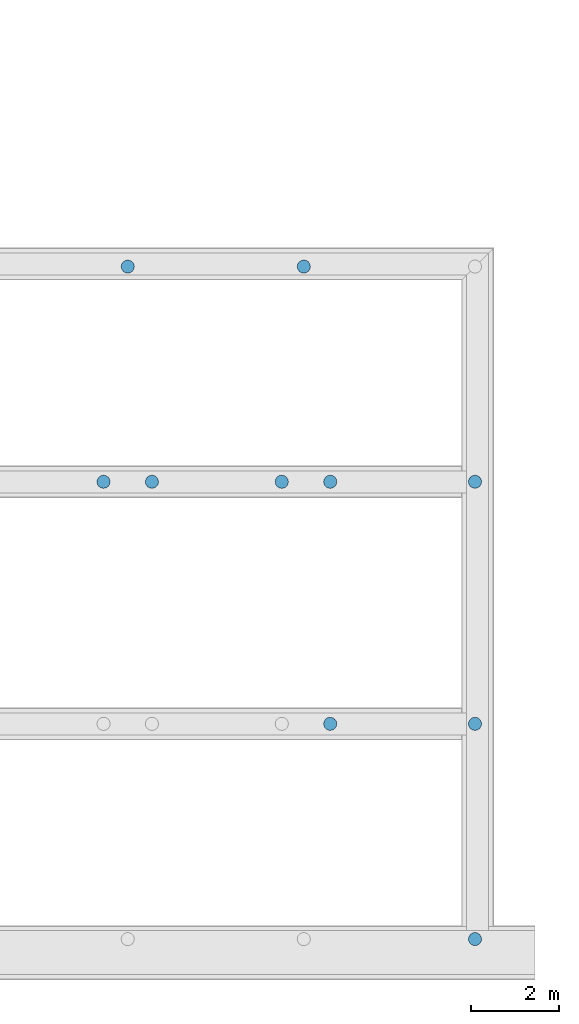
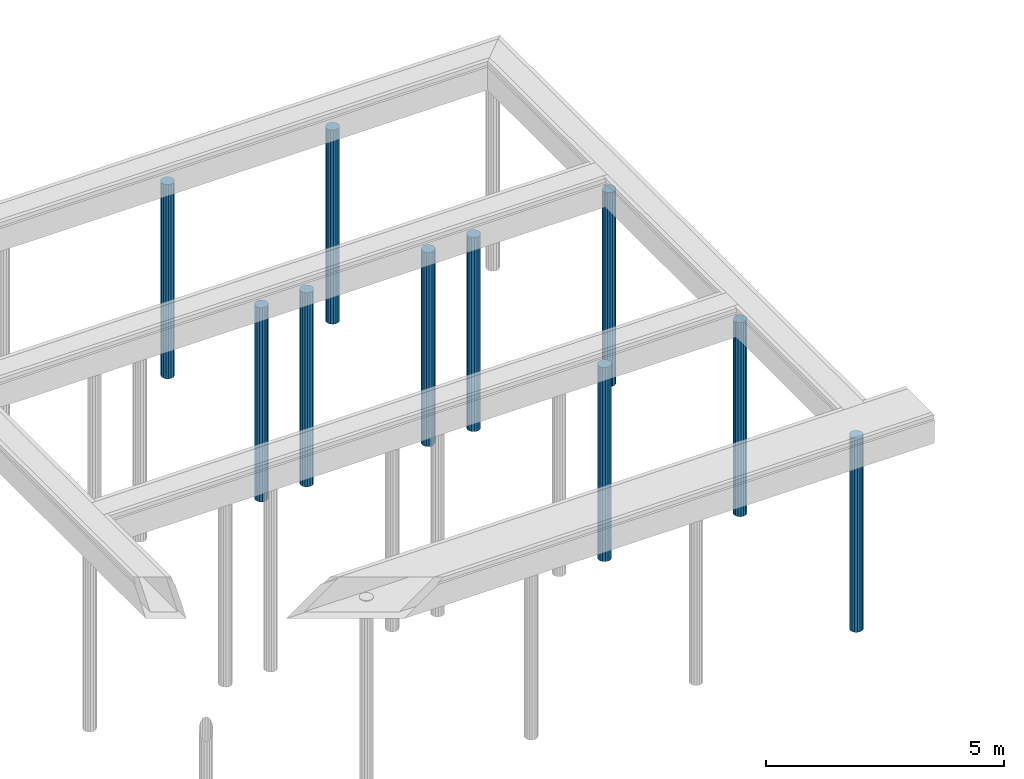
# One storey, part 50 of 102: 10 slabs.
"""IFC2X3 building model written with IfcOpenShell, lengths in millimetres."""

from ifc_helpers import new_model, entity, si_unit, converted_unit, derived_unit, money_unit, direction, frame, origin_with_axes, place, context, subcontext, project, spatial, faceted_brep, material, type_object, element, save


model = new_model("IFC2X3")

# Units and contexts
model_context = context("Model", 3, precision=0.01, world=origin_with_axes(), true_north=direction((0.0, 1.0)))
body_context = subcontext(model_context, "Body", "Model", "MODEL_VIEW")
ifc_project = project(units=[si_unit("LENGTHUNIT", "METRE", prefix="MILLI"), si_unit("AREAUNIT", "SQUARE_METRE"), si_unit("VOLUMEUNIT", "CUBIC_METRE"), converted_unit("PLANEANGLEUNIT", "DEGREE", entity("IfcPlaneAngleMeasure", 0.0174532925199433), si_unit("PLANEANGLEUNIT", "RADIAN"), dimensions=[0, 0, 0, 0, 0, 0, 0]), money_unit("EUR"), converted_unit("TIMEUNIT", "Year", entity("IfcTimeMeasure", 31557600.0), si_unit("TIMEUNIT", "SECOND"), dimensions=[0, 0, 1, 0, 0, 0, 0]), si_unit("MASSUNIT", "GRAM", prefix="KILO"), si_unit("THERMODYNAMICTEMPERATUREUNIT", "DEGREE_CELSIUS"), si_unit("LUMINOUSINTENSITYUNIT", "LUMEN"), si_unit("ENERGYUNIT", "JOULE", prefix="MEGA"), derived_unit("THERMALCONDUCTANCEUNIT", [(si_unit("POWERUNIT", "WATT"), 1), (si_unit("LENGTHUNIT", "METRE"), -1), (si_unit("THERMODYNAMICTEMPERATUREUNIT", "KELVIN"), -1)]), derived_unit("SPECIFICHEATCAPACITYUNIT", [(si_unit("ENERGYUNIT", "JOULE"), 1), (si_unit("MASSUNIT", "GRAM", prefix="KILO"), -1), (si_unit("THERMODYNAMICTEMPERATUREUNIT", "KELVIN"), -1)]), derived_unit("MASSDENSITYUNIT", [(si_unit("MASSUNIT", "GRAM", prefix="KILO"), 1), (si_unit("VOLUMEUNIT", "CUBIC_METRE"), -1)])], contexts=[model_context])

# Site, building, storey
site_placement = place(None, origin_with_axes())
site = spatial("IfcSite", under=ifc_project, at=site_placement, Name="Site", CompositionType="ELEMENT")
building_placement = place(site_placement, origin_with_axes())
building = spatial("IfcBuilding", under=site, at=building_placement, Name="Naam gebouw", CompositionType="ELEMENT")
storey_placement = place(building_placement, frame((0.0, 0.0, -1020.0), z_axis=(0.0, 0.0, 1.0), x_axis=(1.0, 0.0, 0.0)))
storey = spatial("IfcBuildingStorey", under=building, at=storey_placement, Name="-2 fundering", CompositionType="ELEMENT", Elevation=-1020.0)

# Slabs
ifc_material = material(Name="WSP_beton - ihwg beton")
slab_type_1 = type_object("IfcSlabType", Name="Slab 961", PredefinedType="NOTDEFINED")
slab_1_placement = place(storey_placement, frame((26799.99998475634, 29999.99997454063, 1020.000019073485), z_axis=(0.0, 0.0, 1.0), x_axis=(1.0, 0.0, 0.0)))
element("IfcSlab", 1, at=slab_1_placement, inside=storey, type_object=slab_type_1, material=ifc_material, Name="17_WSP_FD_beton - fundatiepaal v21-2:ø300 (schroef)", PredefinedType="NOTDEFINED", context=body_context, shape_type="Brep", body=[
    faceted_brep([(104491.0000152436, -7438.999998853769, -5980.0), (104489.0000152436, -7438.999998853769, -5980.0), (104489.0000152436, -7438.999998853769, -5978.000000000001), (104491.0000152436, -7438.999998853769, -5978.000000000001), (104491.0000152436, -7440.99999885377, -5980.0), (104489.0000152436, -7440.99999885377, -5980.0), (104489.0000152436, -7440.99999885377, -5978.000000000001), (104491.0000152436, -7440.99999885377, -5978.000000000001)], [[[0, 1, 2, 3]], [[0, 4, 5, 1]], [[1, 5, 6, 2]], [[3, 2, 6, 7]], [[4, 0, 3, 7]], [[5, 4, 7, 6]]]),
    faceted_brep([(104340.0000152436, -7439.999998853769, -5980.0), (104351.4180853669, -7497.402513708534, -5980.0), (104351.4180853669, -7497.402513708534, -1000.0), (104340.0000152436, -7439.999998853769, -1000.0), (104351.4180853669, -7382.597483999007, -5980.0), (104383.9339980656, -7333.933981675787, -5980.0), (104432.5975003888, -7301.418068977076, -5980.0), (104490.0000152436, -7289.999998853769, -5980.0), (104547.4025300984, -7301.418068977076, -5980.0), (104596.0660324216, -7333.933981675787, -5980.0), (104628.5819451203, -7382.597483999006, -5980.0), (104640.0000152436, -7439.999998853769, -5980.0), (104628.5819451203, -7497.402513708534, -5980.0), (104596.0660324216, -7546.066016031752, -5980.0), (104547.4025300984, -7578.581928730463, -5980.0), (104490.0000152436, -7589.99999885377, -5980.0), (104432.5975003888, -7578.581928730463, -5980.0), (104383.9339980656, -7546.066016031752, -5980.0), (104383.9339980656, -7546.066016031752, -1000.0), (104432.5975003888, -7578.581928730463, -1000.0), (104490.0000152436, -7589.99999885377, -1000.0), (104547.4025300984, -7578.581928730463, -1000.0), (104596.0660324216, -7546.066016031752, -1000.0), (104628.5819451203, -7497.402513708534, -1000.0), (104640.0000152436, -7439.999998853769, -1000.0), (104628.5819451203, -7382.597483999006, -1000.0), (104596.0660324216, -7333.933981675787, -1000.0), (104547.4025300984, -7301.418068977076, -1000.0), (104490.0000152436, -7289.999998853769, -1000.0), (104432.5975003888, -7301.418068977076, -1000.0), (104383.9339980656, -7333.933981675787, -1000.0), (104351.4180853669, -7382.597483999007, -1000.0)], [[[0, 1, 2, 3]], [[0, 4, 5, 6, 7, 8, 9, 10, 11, 12, 13, 14, 15, 16, 17, 1]], [[1, 17, 18, 2]], [[3, 2, 18, 19, 20, 21, 22, 23, 24, 25, 26, 27, 28, 29, 30, 31]], [[4, 0, 3, 31]], [[5, 4, 31, 30]], [[6, 5, 30, 29]], [[7, 6, 29, 28]], [[8, 7, 28, 27]], [[9, 8, 27, 26]], [[10, 9, 26, 25]], [[11, 10, 25, 24]], [[12, 11, 24, 23]], [[13, 12, 23, 22]], [[14, 13, 22, 21]], [[15, 14, 21, 20]], [[16, 15, 20, 19]], [[17, 16, 19, 18]]]),
])
slab_type_2 = type_object("IfcSlabType", Name="Slab 964", PredefinedType="NOTDEFINED")
slab_2_placement = place(storey_placement, frame((26799.99998475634, 29999.99997454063, 1020.000019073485), z_axis=(0.0, 0.0, 1.0), x_axis=(1.0, 0.0, 0.0)))
element("IfcSlab", 2, at=slab_2_placement, inside=storey, type_object=slab_type_2, material=ifc_material, Name="17_WSP_FD_beton - fundatiepaal v21-2:ø300 (schroef)", PredefinedType="NOTDEFINED", context=body_context, shape_type="Brep", body=[
    faceted_brep([(96601.00001524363, 7841.0000011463, -5980.0), (96599.00001524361, 7841.0000011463, -5980.0), (96599.00001524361, 7841.0000011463, -5978.000000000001), (96601.00001524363, 7841.0000011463, -5978.000000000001), (96601.00001524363, 7839.0000011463, -5980.0), (96599.00001524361, 7839.0000011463, -5980.0), (96599.00001524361, 7839.0000011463, -5978.000000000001), (96601.00001524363, 7839.0000011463, -5978.000000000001)], [[[0, 1, 2, 3]], [[0, 4, 5, 1]], [[1, 5, 6, 2]], [[3, 2, 6, 7]], [[4, 0, 3, 7]], [[5, 4, 7, 6]]]),
    faceted_brep([(96450.00001524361, 7840.0000011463, -5980.0), (96461.41808536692, 7782.597486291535, -5980.0), (96461.41808536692, 7782.597486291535, -1000.0), (96450.00001524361, 7840.0000011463, -1000.0), (96461.41808536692, 7897.402516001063, -5980.0), (96493.93399806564, 7946.066018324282, -5980.0), (96542.59750038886, 7978.581931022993, -5980.0), (96600.00001524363, 7990.0000011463, -5980.0), (96657.40253009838, 7978.581931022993, -5980.0), (96706.0660324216, 7946.066018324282, -5980.0), (96738.58194512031, 7897.402516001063, -5980.0), (96750.00001524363, 7840.0000011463, -5980.0), (96738.58194512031, 7782.597486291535, -5980.0), (96706.0660324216, 7733.933983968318, -5980.0), (96657.40253009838, 7701.418071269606, -5980.0), (96600.00001524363, 7690.0000011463, -5980.0), (96542.59750038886, 7701.418071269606, -5980.0), (96493.93399806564, 7733.933983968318, -5980.0), (96493.93399806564, 7733.933983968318, -1000.0), (96542.59750038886, 7701.418071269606, -1000.0), (96600.00001524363, 7690.0000011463, -1000.0), (96657.40253009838, 7701.418071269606, -1000.0), (96706.0660324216, 7733.933983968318, -1000.0), (96738.58194512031, 7782.597486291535, -1000.0), (96750.00001524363, 7840.0000011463, -1000.0), (96738.58194512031, 7897.402516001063, -1000.0), (96706.0660324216, 7946.066018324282, -1000.0), (96657.40253009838, 7978.581931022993, -1000.0), (96600.00001524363, 7990.0000011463, -1000.0), (96542.59750038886, 7978.581931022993, -1000.0), (96493.93399806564, 7946.066018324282, -1000.0), (96461.41808536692, 7897.402516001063, -1000.0)], [[[0, 1, 2, 3]], [[0, 4, 5, 6, 7, 8, 9, 10, 11, 12, 13, 14, 15, 16, 17, 1]], [[1, 17, 18, 2]], [[3, 2, 18, 19, 20, 21, 22, 23, 24, 25, 26, 27, 28, 29, 30, 31]], [[4, 0, 3, 31]], [[5, 4, 31, 30]], [[6, 5, 30, 29]], [[7, 6, 29, 28]], [[8, 7, 28, 27]], [[9, 8, 27, 26]], [[10, 9, 26, 25]], [[11, 10, 25, 24]], [[12, 11, 24, 23]], [[13, 12, 23, 22]], [[14, 13, 22, 21]], [[15, 14, 21, 20]], [[16, 15, 20, 19]], [[17, 16, 19, 18]]]),
])
slab_type_3 = type_object("IfcSlabType", Name="Slab 965", PredefinedType="NOTDEFINED")
slab_3_placement = place(storey_placement, frame((26799.99998475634, 29999.99997454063, 1020.000019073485), z_axis=(0.0, 0.0, 1.0), x_axis=(1.0, 0.0, 0.0)))
element("IfcSlab", 3, at=slab_3_placement, inside=storey, type_object=slab_type_3, material=ifc_material, Name="17_WSP_FD_beton - fundatiepaal v21-2:ø300 (schroef)", PredefinedType="NOTDEFINED", context=body_context, shape_type="Brep", body=[
    faceted_brep([(100601.0000152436, 7841.000001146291, -5980.0), (100599.0000152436, 7841.000001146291, -5980.0), (100599.0000152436, 7841.000001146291, -5978.000000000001), (100601.0000152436, 7841.000001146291, -5978.000000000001), (100601.0000152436, 7839.00000114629, -5980.0), (100599.0000152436, 7839.00000114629, -5980.0), (100599.0000152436, 7839.00000114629, -5978.000000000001), (100601.0000152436, 7839.00000114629, -5978.000000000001)], [[[0, 1, 2, 3]], [[0, 4, 5, 1]], [[1, 5, 6, 2]], [[3, 2, 6, 7]], [[4, 0, 3, 7]], [[5, 4, 7, 6]]]),
    faceted_brep([(100450.0000152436, 7840.00000114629, -5980.0), (100461.4180853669, 7782.597486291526, -5980.0), (100461.4180853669, 7782.597486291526, -1000.0), (100450.0000152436, 7840.00000114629, -1000.0), (100461.4180853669, 7897.402516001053, -5980.0), (100493.9339980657, 7946.066018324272, -5980.0), (100542.5975003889, 7978.581931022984, -5980.0), (100600.0000152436, 7990.000001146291, -5980.0), (100657.4025300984, 7978.581931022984, -5980.0), (100706.0660324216, 7946.066018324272, -5980.0), (100738.5819451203, 7897.402516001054, -5980.0), (100750.0000152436, 7840.00000114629, -5980.0), (100738.5819451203, 7782.597486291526, -5980.0), (100706.0660324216, 7733.933983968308, -5980.0), (100657.4025300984, 7701.418071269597, -5980.0), (100600.0000152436, 7690.00000114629, -5980.0), (100542.5975003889, 7701.418071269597, -5980.0), (100493.9339980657, 7733.933983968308, -5980.0), (100493.9339980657, 7733.933983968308, -1000.0), (100542.5975003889, 7701.418071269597, -1000.0), (100600.0000152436, 7690.00000114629, -1000.0), (100657.4025300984, 7701.418071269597, -1000.0), (100706.0660324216, 7733.933983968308, -1000.0), (100738.5819451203, 7782.597486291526, -1000.0), (100750.0000152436, 7840.00000114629, -1000.0), (100738.5819451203, 7897.402516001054, -1000.0), (100706.0660324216, 7946.066018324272, -1000.0), (100657.4025300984, 7978.581931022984, -1000.0), (100600.0000152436, 7990.000001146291, -1000.0), (100542.5975003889, 7978.581931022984, -1000.0), (100493.9339980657, 7946.066018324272, -1000.0), (100461.4180853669, 7897.402516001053, -1000.0)], [[[0, 1, 2, 3]], [[0, 4, 5, 6, 7, 8, 9, 10, 11, 12, 13, 14, 15, 16, 17, 1]], [[1, 17, 18, 2]], [[3, 2, 18, 19, 20, 21, 22, 23, 24, 25, 26, 27, 28, 29, 30, 31]], [[4, 0, 3, 31]], [[5, 4, 31, 30]], [[6, 5, 30, 29]], [[7, 6, 29, 28]], [[8, 7, 28, 27]], [[9, 8, 27, 26]], [[10, 9, 26, 25]], [[11, 10, 25, 24]], [[12, 11, 24, 23]], [[13, 12, 23, 22]], [[14, 13, 22, 21]], [[15, 14, 21, 20]], [[16, 15, 20, 19]], [[17, 16, 19, 18]]]),
])
slab_type_4 = type_object("IfcSlabType", Name="Slab 970", PredefinedType="NOTDEFINED")
slab_4_placement = place(storey_placement, frame((26799.99998475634, 29999.99997454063, 1020.000019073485), z_axis=(0.0, 0.0, 1.0), x_axis=(1.0, 0.0, 0.0)))
element("IfcSlab", 4, at=slab_4_placement, inside=storey, type_object=slab_type_4, material=ifc_material, Name="17_WSP_FD_beton - fundatiepaal v21-2:ø300 (schroef)", PredefinedType="NOTDEFINED", context=body_context, shape_type="Brep", body=[
    faceted_brep([(104491.0000152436, 2951.00000114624, -5980.0), (104489.0000152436, 2951.00000114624, -5980.0), (104489.0000152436, 2951.00000114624, -5978.000000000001), (104491.0000152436, 2951.00000114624, -5978.000000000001), (104491.0000152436, 2949.00000114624, -5980.0), (104489.0000152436, 2949.00000114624, -5980.0), (104489.0000152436, 2949.00000114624, -5978.000000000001), (104491.0000152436, 2949.00000114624, -5978.000000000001)], [[[0, 1, 2, 3]], [[0, 4, 5, 1]], [[1, 5, 6, 2]], [[3, 2, 6, 7]], [[4, 0, 3, 7]], [[5, 4, 7, 6]]]),
    faceted_brep([(104340.0000152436, 2950.00000114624, -5980.0), (104351.4180853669, 2892.597486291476, -5980.0), (104351.4180853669, 2892.597486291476, -1000.0), (104340.0000152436, 2950.00000114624, -1000.0), (104351.4180853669, 3007.402516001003, -5980.0), (104383.9339980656, 3056.066018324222, -5980.0), (104432.5975003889, 3088.581931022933, -5980.0), (104490.0000152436, 3100.00000114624, -5980.0), (104547.4025300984, 3088.581931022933, -5980.0), (104596.0660324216, 3056.066018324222, -5980.0), (104628.5819451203, 3007.402516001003, -5980.0), (104640.0000152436, 2950.00000114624, -5980.0), (104628.5819451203, 2892.597486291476, -5980.0), (104596.0660324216, 2843.933983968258, -5980.0), (104547.4025300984, 2811.418071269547, -5980.0), (104490.0000152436, 2800.00000114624, -5980.0), (104432.5975003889, 2811.418071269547, -5980.0), (104383.9339980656, 2843.933983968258, -5980.0), (104383.9339980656, 2843.933983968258, -1000.0), (104432.5975003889, 2811.418071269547, -1000.0), (104490.0000152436, 2800.00000114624, -1000.0), (104547.4025300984, 2811.418071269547, -1000.0), (104596.0660324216, 2843.933983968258, -1000.0), (104628.5819451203, 2892.597486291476, -1000.0), (104640.0000152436, 2950.00000114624, -1000.0), (104628.5819451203, 3007.402516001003, -1000.0), (104596.0660324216, 3056.066018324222, -1000.0), (104547.4025300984, 3088.581931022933, -1000.0), (104490.0000152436, 3100.00000114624, -1000.0), (104432.5975003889, 3088.581931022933, -1000.0), (104383.9339980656, 3056.066018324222, -1000.0), (104351.4180853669, 3007.402516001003, -1000.0)], [[[0, 1, 2, 3]], [[0, 4, 5, 6, 7, 8, 9, 10, 11, 12, 13, 14, 15, 16, 17, 1]], [[1, 17, 18, 2]], [[3, 2, 18, 19, 20, 21, 22, 23, 24, 25, 26, 27, 28, 29, 30, 31]], [[4, 0, 3, 31]], [[5, 4, 31, 30]], [[6, 5, 30, 29]], [[7, 6, 29, 28]], [[8, 7, 28, 27]], [[9, 8, 27, 26]], [[10, 9, 26, 25]], [[11, 10, 25, 24]], [[12, 11, 24, 23]], [[13, 12, 23, 22]], [[14, 13, 22, 21]], [[15, 14, 21, 20]], [[16, 15, 20, 19]], [[17, 16, 19, 18]]]),
])
slab_type_5 = type_object("IfcSlabType", Name="Slab 973", PredefinedType="NOTDEFINED")
slab_5_placement = place(storey_placement, frame((26799.99998475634, 29999.99997454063, 1020.000019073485), z_axis=(0.0, 0.0, 1.0), x_axis=(1.0, 0.0, 0.0)))
element("IfcSlab", 5, at=slab_5_placement, inside=storey, type_object=slab_type_5, material=ifc_material, Name="17_WSP_FD_beton - fundatiepaal v21-2:ø300 (schroef)", PredefinedType="NOTDEFINED", context=body_context, shape_type="Brep", body=[
    faceted_brep([(100101.0000152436, 2951.00000114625, -5980.0), (100099.0000152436, 2951.00000114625, -5980.0), (100099.0000152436, 2951.00000114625, -5978.000000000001), (100101.0000152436, 2951.00000114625, -5978.000000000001), (100101.0000152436, 2949.00000114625, -5980.0), (100099.0000152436, 2949.00000114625, -5980.0), (100099.0000152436, 2949.00000114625, -5978.000000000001), (100101.0000152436, 2949.00000114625, -5978.000000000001)], [[[0, 1, 2, 3]], [[0, 4, 5, 1]], [[1, 5, 6, 2]], [[3, 2, 6, 7]], [[4, 0, 3, 7]], [[5, 4, 7, 6]]]),
    faceted_brep([(99950.00001524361, 2950.00000114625, -5980.0), (99961.41808536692, 2892.597486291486, -5980.0), (99961.41808536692, 2892.597486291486, -1000.0), (99950.00001524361, 2950.00000114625, -1000.0), (99961.41808536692, 3007.402516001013, -5980.0), (99993.93399806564, 3056.066018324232, -5980.0), (100042.5975003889, 3088.581931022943, -5980.0), (100100.0000152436, 3100.00000114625, -5980.0), (100157.4025300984, 3088.581931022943, -5980.0), (100206.0660324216, 3056.066018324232, -5980.0), (100238.5819451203, 3007.402516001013, -5980.0), (100250.0000152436, 2950.00000114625, -5980.0), (100238.5819451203, 2892.597486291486, -5980.0), (100206.0660324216, 2843.933983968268, -5980.0), (100157.4025300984, 2811.418071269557, -5980.0), (100100.0000152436, 2800.00000114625, -5980.0), (100042.5975003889, 2811.418071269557, -5980.0), (99993.93399806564, 2843.933983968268, -5980.0), (99993.93399806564, 2843.933983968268, -1000.0), (100042.5975003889, 2811.418071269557, -1000.0), (100100.0000152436, 2800.00000114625, -1000.0), (100157.4025300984, 2811.418071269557, -1000.0), (100206.0660324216, 2843.933983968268, -1000.0), (100238.5819451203, 2892.597486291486, -1000.0), (100250.0000152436, 2950.00000114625, -1000.0), (100238.5819451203, 3007.402516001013, -1000.0), (100206.0660324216, 3056.066018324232, -1000.0), (100157.4025300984, 3088.581931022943, -1000.0), (100100.0000152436, 3100.00000114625, -1000.0), (100042.5975003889, 3088.581931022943, -1000.0), (99993.93399806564, 3056.066018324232, -1000.0), (99961.41808536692, 3007.402516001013, -1000.0)], [[[0, 1, 2, 3]], [[0, 4, 5, 6, 7, 8, 9, 10, 11, 12, 13, 14, 15, 16, 17, 1]], [[1, 17, 18, 2]], [[3, 2, 18, 19, 20, 21, 22, 23, 24, 25, 26, 27, 28, 29, 30, 31]], [[4, 0, 3, 31]], [[5, 4, 31, 30]], [[6, 5, 30, 29]], [[7, 6, 29, 28]], [[8, 7, 28, 27]], [[9, 8, 27, 26]], [[10, 9, 26, 25]], [[11, 10, 25, 24]], [[12, 11, 24, 23]], [[13, 12, 23, 22]], [[14, 13, 22, 21]], [[15, 14, 21, 20]], [[16, 15, 20, 19]], [[17, 16, 19, 18]]]),
])
slab_type_6 = type_object("IfcSlabType", Name="Slab 974", PredefinedType="NOTDEFINED")
slab_6_placement = place(storey_placement, frame((26799.99998475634, 29999.99997454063, 1020.000019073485), z_axis=(0.0, 0.0, 1.0), x_axis=(1.0, 0.0, 0.0)))
element("IfcSlab", 6, at=slab_6_placement, inside=storey, type_object=slab_type_6, material=ifc_material, Name="17_WSP_FD_beton - fundatiepaal v21-2:ø300 (schroef)", PredefinedType="NOTDEFINED", context=body_context, shape_type="Brep", body=[
    faceted_brep([(101201.0000152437, 2951.00000114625, -5980.0), (101199.0000152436, 2951.00000114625, -5980.0), (101199.0000152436, 2951.00000114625, -5978.000000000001), (101201.0000152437, 2951.00000114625, -5978.000000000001), (101201.0000152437, 2949.00000114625, -5980.0), (101199.0000152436, 2949.00000114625, -5980.0), (101199.0000152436, 2949.00000114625, -5978.000000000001), (101201.0000152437, 2949.00000114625, -5978.000000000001)], [[[0, 1, 2, 3]], [[0, 4, 5, 1]], [[1, 5, 6, 2]], [[3, 2, 6, 7]], [[4, 0, 3, 7]], [[5, 4, 7, 6]]]),
    faceted_brep([(101050.0000152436, 2950.00000114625, -5980.0), (101061.418085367, 2892.597486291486, -5980.0), (101061.418085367, 2892.597486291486, -1000.0), (101050.0000152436, 2950.00000114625, -1000.0), (101061.418085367, 3007.402516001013, -5980.0), (101093.9339980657, 3056.066018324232, -5980.0), (101142.5975003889, 3088.581931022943, -5980.0), (101200.0000152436, 3100.00000114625, -5980.0), (101257.4025300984, 3088.581931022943, -5980.0), (101306.0660324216, 3056.066018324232, -5980.0), (101338.5819451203, 3007.402516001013, -5980.0), (101350.0000152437, 2950.00000114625, -5980.0), (101338.5819451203, 2892.597486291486, -5980.0), (101306.0660324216, 2843.933983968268, -5980.0), (101257.4025300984, 2811.418071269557, -5980.0), (101200.0000152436, 2800.00000114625, -5980.0), (101142.5975003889, 2811.418071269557, -5980.0), (101093.9339980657, 2843.933983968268, -5980.0), (101093.9339980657, 2843.933983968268, -1000.0), (101142.5975003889, 2811.418071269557, -1000.0), (101200.0000152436, 2800.00000114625, -1000.0), (101257.4025300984, 2811.418071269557, -1000.0), (101306.0660324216, 2843.933983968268, -1000.0), (101338.5819451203, 2892.597486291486, -1000.0), (101350.0000152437, 2950.00000114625, -1000.0), (101338.5819451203, 3007.402516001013, -1000.0), (101306.0660324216, 3056.066018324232, -1000.0), (101257.4025300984, 3088.581931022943, -1000.0), (101200.0000152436, 3100.00000114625, -1000.0), (101142.5975003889, 3088.581931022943, -1000.0), (101093.9339980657, 3056.066018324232, -1000.0), (101061.418085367, 3007.402516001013, -1000.0)], [[[0, 1, 2, 3]], [[0, 4, 5, 6, 7, 8, 9, 10, 11, 12, 13, 14, 15, 16, 17, 1]], [[1, 17, 18, 2]], [[3, 2, 18, 19, 20, 21, 22, 23, 24, 25, 26, 27, 28, 29, 30, 31]], [[4, 0, 3, 31]], [[5, 4, 31, 30]], [[6, 5, 30, 29]], [[7, 6, 29, 28]], [[8, 7, 28, 27]], [[9, 8, 27, 26]], [[10, 9, 26, 25]], [[11, 10, 25, 24]], [[12, 11, 24, 23]], [[13, 12, 23, 22]], [[14, 13, 22, 21]], [[15, 14, 21, 20]], [[16, 15, 20, 19]], [[17, 16, 19, 18]]]),
])
slab_type_7 = type_object("IfcSlabType", Name="Slab 975", PredefinedType="NOTDEFINED")
slab_7_placement = place(storey_placement, frame((26799.99998475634, 29999.99997454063, 1020.000019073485), z_axis=(0.0, 0.0, 1.0), x_axis=(1.0, 0.0, 0.0)))
element("IfcSlab", 7, at=slab_7_placement, inside=storey, type_object=slab_type_7, material=ifc_material, Name="17_WSP_FD_beton - fundatiepaal v21-2:ø300 (schroef)", PredefinedType="NOTDEFINED", context=body_context, shape_type="Brep", body=[
    faceted_brep([(96051.00001524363, 2951.00000114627, -5980.0), (96049.00001524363, 2951.00000114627, -5980.0), (96049.00001524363, 2951.00000114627, -5978.000000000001), (96051.00001524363, 2951.00000114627, -5978.000000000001), (96051.00001524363, 2949.00000114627, -5980.0), (96049.00001524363, 2949.00000114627, -5980.0), (96049.00001524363, 2949.00000114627, -5978.000000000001), (96051.00001524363, 2949.00000114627, -5978.000000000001)], [[[0, 1, 2, 3]], [[0, 4, 5, 1]], [[1, 5, 6, 2]], [[3, 2, 6, 7]], [[4, 0, 3, 7]], [[5, 4, 7, 6]]]),
    faceted_brep([(95900.00001524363, 2950.00000114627, -5980.0), (95911.41808536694, 2892.597486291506, -5980.0), (95911.41808536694, 2892.597486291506, -1000.0), (95900.00001524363, 2950.00000114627, -1000.0), (95911.41808536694, 3007.402516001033, -5980.0), (95943.93399806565, 3056.066018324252, -5980.0), (95992.59750038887, 3088.581931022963, -5980.0), (96050.00001524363, 3100.00000114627, -5980.0), (96107.40253009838, 3088.581931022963, -5980.0), (96156.0660324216, 3056.066018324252, -5980.0), (96188.58194512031, 3007.402516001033, -5980.0), (96200.00001524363, 2950.00000114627, -5980.0), (96188.58194512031, 2892.597486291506, -5980.0), (96156.0660324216, 2843.933983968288, -5980.0), (96107.40253009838, 2811.418071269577, -5980.0), (96050.00001524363, 2800.00000114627, -5980.0), (95992.59750038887, 2811.418071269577, -5980.0), (95943.93399806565, 2843.933983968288, -5980.0), (95943.93399806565, 2843.933983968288, -1000.0), (95992.59750038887, 2811.418071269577, -1000.0), (96050.00001524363, 2800.00000114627, -1000.0), (96107.40253009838, 2811.418071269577, -1000.0), (96156.0660324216, 2843.933983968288, -1000.0), (96188.58194512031, 2892.597486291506, -1000.0), (96200.00001524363, 2950.00000114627, -1000.0), (96188.58194512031, 3007.402516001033, -1000.0), (96156.0660324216, 3056.066018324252, -1000.0), (96107.40253009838, 3088.581931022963, -1000.0), (96050.00001524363, 3100.00000114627, -1000.0), (95992.59750038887, 3088.581931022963, -1000.0), (95943.93399806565, 3056.066018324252, -1000.0), (95911.41808536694, 3007.402516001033, -1000.0)], [[[0, 1, 2, 3]], [[0, 4, 5, 6, 7, 8, 9, 10, 11, 12, 13, 14, 15, 16, 17, 1]], [[1, 17, 18, 2]], [[3, 2, 18, 19, 20, 21, 22, 23, 24, 25, 26, 27, 28, 29, 30, 31]], [[4, 0, 3, 31]], [[5, 4, 31, 30]], [[6, 5, 30, 29]], [[7, 6, 29, 28]], [[8, 7, 28, 27]], [[9, 8, 27, 26]], [[10, 9, 26, 25]], [[11, 10, 25, 24]], [[12, 11, 24, 23]], [[13, 12, 23, 22]], [[14, 13, 22, 21]], [[15, 14, 21, 20]], [[16, 15, 20, 19]], [[17, 16, 19, 18]]]),
])
slab_type_8 = type_object("IfcSlabType", Name="Slab 976", PredefinedType="NOTDEFINED")
slab_8_placement = place(storey_placement, frame((26799.99998475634, 29999.99997454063, 1020.000019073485), z_axis=(0.0, 0.0, 1.0), x_axis=(1.0, 0.0, 0.0)))
element("IfcSlab", 8, at=slab_8_placement, inside=storey, type_object=slab_type_8, material=ifc_material, Name="17_WSP_FD_beton - fundatiepaal v21-2:ø300 (schroef)", PredefinedType="NOTDEFINED", context=body_context, shape_type="Brep", body=[
    faceted_brep([(97151.00001524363, 2951.00000114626, -5980.0), (97149.00001524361, 2951.00000114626, -5980.0), (97149.00001524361, 2951.00000114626, -5978.000000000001), (97151.00001524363, 2951.00000114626, -5978.000000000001), (97151.00001524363, 2949.00000114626, -5980.0), (97149.00001524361, 2949.00000114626, -5980.0), (97149.00001524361, 2949.00000114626, -5978.000000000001), (97151.00001524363, 2949.00000114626, -5978.000000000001)], [[[0, 1, 2, 3]], [[0, 4, 5, 1]], [[1, 5, 6, 2]], [[3, 2, 6, 7]], [[4, 0, 3, 7]], [[5, 4, 7, 6]]]),
    faceted_brep([(97000.00001524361, 2950.00000114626, -5980.0), (97011.41808536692, 2892.597486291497, -5980.0), (97011.41808536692, 2892.597486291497, -1000.0), (97000.00001524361, 2950.00000114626, -1000.0), (97011.41808536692, 3007.402516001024, -5980.0), (97043.93399806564, 3056.066018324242, -5980.0), (97092.59750038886, 3088.581931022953, -5980.0), (97150.00001524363, 3100.00000114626, -5980.0), (97207.40253009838, 3088.581931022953, -5980.0), (97256.0660324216, 3056.066018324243, -5980.0), (97288.58194512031, 3007.402516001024, -5980.0), (97300.00001524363, 2950.00000114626, -5980.0), (97288.58194512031, 2892.597486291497, -5980.0), (97256.0660324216, 2843.933983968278, -5980.0), (97207.40253009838, 2811.418071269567, -5980.0), (97150.00001524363, 2800.00000114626, -5980.0), (97092.59750038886, 2811.418071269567, -5980.0), (97043.93399806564, 2843.933983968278, -5980.0), (97043.93399806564, 2843.933983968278, -1000.0), (97092.59750038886, 2811.418071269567, -1000.0), (97150.00001524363, 2800.00000114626, -1000.0), (97207.40253009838, 2811.418071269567, -1000.0), (97256.0660324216, 2843.933983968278, -1000.0), (97288.58194512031, 2892.597486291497, -1000.0), (97300.00001524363, 2950.00000114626, -1000.0), (97288.58194512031, 3007.402516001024, -1000.0), (97256.0660324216, 3056.066018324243, -1000.0), (97207.40253009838, 3088.581931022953, -1000.0), (97150.00001524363, 3100.00000114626, -1000.0), (97092.59750038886, 3088.581931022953, -1000.0), (97043.93399806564, 3056.066018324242, -1000.0), (97011.41808536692, 3007.402516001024, -1000.0)], [[[0, 1, 2, 3]], [[0, 4, 5, 6, 7, 8, 9, 10, 11, 12, 13, 14, 15, 16, 17, 1]], [[1, 17, 18, 2]], [[3, 2, 18, 19, 20, 21, 22, 23, 24, 25, 26, 27, 28, 29, 30, 31]], [[4, 0, 3, 31]], [[5, 4, 31, 30]], [[6, 5, 30, 29]], [[7, 6, 29, 28]], [[8, 7, 28, 27]], [[9, 8, 27, 26]], [[10, 9, 26, 25]], [[11, 10, 25, 24]], [[12, 11, 24, 23]], [[13, 12, 23, 22]], [[14, 13, 22, 21]], [[15, 14, 21, 20]], [[16, 15, 20, 19]], [[17, 16, 19, 18]]]),
])
slab_type_9 = type_object("IfcSlabType", Name="Slab 979", PredefinedType="NOTDEFINED")
slab_9_placement = place(storey_placement, frame((26799.99998475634, 29999.99997454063, 1020.000019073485), z_axis=(0.0, 0.0, 1.0), x_axis=(1.0, 0.0, 0.0)))
element("IfcSlab", 9, at=slab_9_placement, inside=storey, type_object=slab_type_9, material=ifc_material, Name="17_WSP_FD_beton - fundatiepaal v21-2:ø300 (schroef)", PredefinedType="NOTDEFINED", context=body_context, shape_type="Brep", body=[
    faceted_brep([(101201.0000152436, -2548.99999885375, -5980.0), (101199.0000152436, -2548.99999885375, -5980.0), (101199.0000152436, -2548.99999885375, -5978.000000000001), (101201.0000152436, -2548.99999885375, -5978.000000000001), (101201.0000152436, -2550.99999885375, -5980.0), (101199.0000152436, -2550.99999885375, -5980.0), (101199.0000152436, -2550.99999885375, -5978.000000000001), (101201.0000152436, -2550.99999885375, -5978.000000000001)], [[[0, 1, 2, 3]], [[0, 4, 5, 1]], [[1, 5, 6, 2]], [[3, 2, 6, 7]], [[4, 0, 3, 7]], [[5, 4, 7, 6]]]),
    faceted_brep([(101050.0000152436, -2549.99999885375, -5980.0), (101061.4180853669, -2607.402513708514, -5980.0), (101061.4180853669, -2607.402513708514, -1000.0), (101050.0000152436, -2549.99999885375, -1000.0), (101061.4180853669, -2492.597483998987, -5980.0), (101093.9339980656, -2443.933981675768, -5980.0), (101142.5975003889, -2411.418068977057, -5980.0), (101200.0000152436, -2399.99999885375, -5980.0), (101257.4025300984, -2411.418068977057, -5980.0), (101306.0660324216, -2443.933981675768, -5980.0), (101338.5819451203, -2492.597483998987, -5980.0), (101350.0000152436, -2549.99999885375, -5980.0), (101338.5819451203, -2607.402513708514, -5980.0), (101306.0660324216, -2656.066016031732, -5980.0), (101257.4025300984, -2688.581928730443, -5980.0), (101200.0000152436, -2699.99999885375, -5980.0), (101142.5975003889, -2688.581928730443, -5980.0), (101093.9339980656, -2656.066016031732, -5980.0), (101093.9339980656, -2656.066016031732, -1000.0), (101142.5975003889, -2688.581928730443, -1000.0), (101200.0000152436, -2699.99999885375, -1000.0), (101257.4025300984, -2688.581928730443, -1000.0), (101306.0660324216, -2656.066016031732, -1000.0), (101338.5819451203, -2607.402513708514, -1000.0), (101350.0000152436, -2549.99999885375, -1000.0), (101338.5819451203, -2492.597483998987, -1000.0), (101306.0660324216, -2443.933981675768, -1000.0), (101257.4025300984, -2411.418068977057, -1000.0), (101200.0000152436, -2399.99999885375, -1000.0), (101142.5975003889, -2411.418068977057, -1000.0), (101093.9339980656, -2443.933981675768, -1000.0), (101061.4180853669, -2492.597483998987, -1000.0)], [[[0, 1, 2, 3]], [[0, 4, 5, 6, 7, 8, 9, 10, 11, 12, 13, 14, 15, 16, 17, 1]], [[1, 17, 18, 2]], [[3, 2, 18, 19, 20, 21, 22, 23, 24, 25, 26, 27, 28, 29, 30, 31]], [[4, 0, 3, 31]], [[5, 4, 31, 30]], [[6, 5, 30, 29]], [[7, 6, 29, 28]], [[8, 7, 28, 27]], [[9, 8, 27, 26]], [[10, 9, 26, 25]], [[11, 10, 25, 24]], [[12, 11, 24, 23]], [[13, 12, 23, 22]], [[14, 13, 22, 21]], [[15, 14, 21, 20]], [[16, 15, 20, 19]], [[17, 16, 19, 18]]]),
])
slab_type_10 = type_object("IfcSlabType", Name="Slab 983", PredefinedType="NOTDEFINED")
slab_10_placement = place(storey_placement, frame((26799.99998475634, 29999.99997454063, 1020.000019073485), z_axis=(0.0, 0.0, 1.0), x_axis=(1.0, 0.0, 0.0)))
element("IfcSlab", 10, at=slab_10_placement, inside=storey, type_object=slab_type_10, material=ifc_material, Name="17_WSP_FD_beton - fundatiepaal v21-2:ø300 (schroef)", PredefinedType="NOTDEFINED", context=body_context, shape_type="Brep", body=[
    faceted_brep([(104491.0000152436, -2548.99999885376, -5980.0), (104489.0000152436, -2548.99999885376, -5980.0), (104489.0000152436, -2548.99999885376, -5978.000000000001), (104491.0000152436, -2548.99999885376, -5978.000000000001), (104491.0000152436, -2550.99999885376, -5980.0), (104489.0000152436, -2550.99999885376, -5980.0), (104489.0000152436, -2550.99999885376, -5978.000000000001), (104491.0000152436, -2550.99999885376, -5978.000000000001)], [[[0, 1, 2, 3]], [[0, 4, 5, 1]], [[1, 5, 6, 2]], [[3, 2, 6, 7]], [[4, 0, 3, 7]], [[5, 4, 7, 6]]]),
    faceted_brep([(104340.0000152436, -2549.99999885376, -5980.0), (104351.4180853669, -2607.402513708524, -5980.0), (104351.4180853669, -2607.402513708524, -1000.0), (104340.0000152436, -2549.99999885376, -1000.0), (104351.4180853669, -2492.597483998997, -5980.0), (104383.9339980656, -2443.933981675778, -5980.0), (104432.5975003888, -2411.418068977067, -5980.0), (104490.0000152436, -2399.99999885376, -5980.0), (104547.4025300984, -2411.418068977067, -5980.0), (104596.0660324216, -2443.933981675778, -5980.0), (104628.5819451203, -2492.597483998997, -5980.0), (104640.0000152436, -2549.99999885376, -5980.0), (104628.5819451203, -2607.402513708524, -5980.0), (104596.0660324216, -2656.066016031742, -5980.0), (104547.4025300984, -2688.581928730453, -5980.0), (104490.0000152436, -2699.99999885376, -5980.0), (104432.5975003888, -2688.581928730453, -5980.0), (104383.9339980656, -2656.066016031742, -5980.0), (104383.9339980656, -2656.066016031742, -1000.0), (104432.5975003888, -2688.581928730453, -1000.0), (104490.0000152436, -2699.99999885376, -1000.0), (104547.4025300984, -2688.581928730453, -1000.0), (104596.0660324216, -2656.066016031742, -1000.0), (104628.5819451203, -2607.402513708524, -1000.0), (104640.0000152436, -2549.99999885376, -1000.0), (104628.5819451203, -2492.597483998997, -1000.0), (104596.0660324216, -2443.933981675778, -1000.0), (104547.4025300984, -2411.418068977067, -1000.0), (104490.0000152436, -2399.99999885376, -1000.0), (104432.5975003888, -2411.418068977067, -1000.0), (104383.9339980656, -2443.933981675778, -1000.0), (104351.4180853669, -2492.597483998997, -1000.0)], [[[0, 1, 2, 3]], [[0, 4, 5, 6, 7, 8, 9, 10, 11, 12, 13, 14, 15, 16, 17, 1]], [[1, 17, 18, 2]], [[3, 2, 18, 19, 20, 21, 22, 23, 24, 25, 26, 27, 28, 29, 30, 31]], [[4, 0, 3, 31]], [[5, 4, 31, 30]], [[6, 5, 30, 29]], [[7, 6, 29, 28]], [[8, 7, 28, 27]], [[9, 8, 27, 26]], [[10, 9, 26, 25]], [[11, 10, 25, 24]], [[12, 11, 24, 23]], [[13, 12, 23, 22]], [[14, 13, 22, 21]], [[15, 14, 21, 20]], [[16, 15, 20, 19]], [[17, 16, 19, 18]]]),
])

save(model, "model.ifc")
